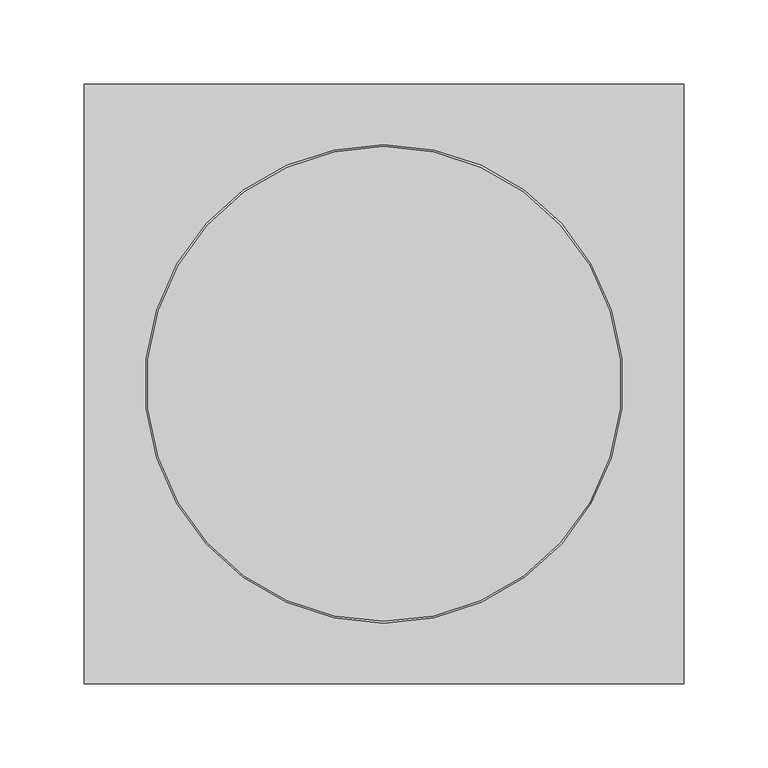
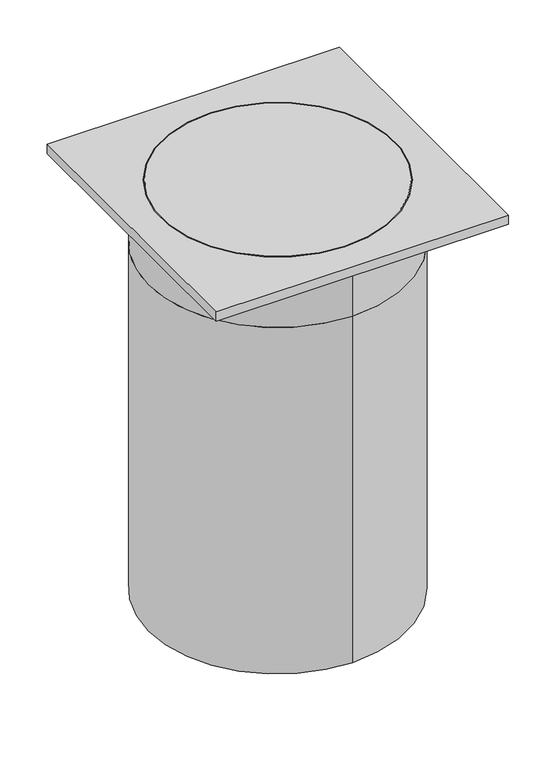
"""IFC4 building model written with IfcOpenShell, lengths in millimetres: valve geometry, Pipelife - Studnia PRO - Teleskop 315 z kratą : 40.0t/315/400 D400K."""

from ifc_helpers import new_model, si_unit, point, frame, origin, origin_2d, place, context, project, spatial, polyline, circle_curve, trimmed, segment, composite_curve, outline, extrude, source, transform, mapped, element, save
from ifc_brep_helpers import plane_surface, cylinder_surface, revolved_surface, advanced_brep


def valve_eae6d5a1(model_context):
    return source(origin(), model_context, "Body", "SolidModel", [
        extrude(outline(polyline([(-178.0, -178.0), (-178.0, 178.0), (178.0, 178.0), (178.0, -178.0), (-178.0, -178.0)]), holes=[composite_curve([segment(trimmed(circle_curve(origin_2d(), 142.0), [point((0.0, 142.0))], [point((0.0, -142.0))], True, "CARTESIAN"), True, "CONTINUOUS"), segment(trimmed(circle_curve(origin_2d(), 142.0), [point((0.0, -142.0))], [point((0.0, 142.0))], True, "CARTESIAN"), True, "CONTINUOUS")], self_intersect=False)]), frame((0.0, 0.0, 4.0), z_axis=(0.0, 0.0, 1.0), x_axis=(1.0, 0.0, 0.0)), (0.0, 0.0, 1.0), 12.0),
        extrude(outline(composite_curve([segment(trimmed(circle_curve(origin_2d(), 141.0), [point((0.0, 141.0))], [point((0.0, -141.0))], False, "CARTESIAN"), True, "CONTINUOUS"), segment(trimmed(circle_curve(origin_2d(), 141.0), [point((0.0, -141.0))], [point((0.0, 141.0))], False, "CARTESIAN"), True, "CONTINUOUS")], self_intersect=False)), frame((0.0, 0.0, -10.0), z_axis=(0.0, 0.0, 1.0), x_axis=(1.0, 0.0, 0.0)), (0.0, 0.0, 1.0), 26.0),
        advanced_brep(
        [(0.0, 157.5, 4.0), (0.0, -157.5, 4.0), (0.0, -142.0, 4.0), (0.0, 142.0, 4.0), (0.0, 157.5, -64.0), (0.0, -157.5, -64.0), (0.0, 151.0, -64.0), (0.0, -151.0, -64.0), (0.0, 151.0, -10.0), (0.0, -151.0, -10.0), (0.0, 142.0, -10.0), (0.0, -142.0, -10.0)],
        [
            (0, 1, circle_curve(frame((0.0, 0.0, 4.0), z_axis=(0.0, 0.0, 1.0), x_axis=(0.0, -1.0, 0.0)), 157.5)),
            (1, 0, circle_curve(frame((0.0, 0.0, 4.0), z_axis=(0.0, 0.0, 1.0), x_axis=(0.0, -1.0, 0.0)), 157.5)),
            (2, 3, circle_curve(frame((0.0, 0.0, 4.0), z_axis=(0.0, 0.0, -1.0), x_axis=(0.0, -1.0, 0.0)), 142.0)),
            (3, 2, circle_curve(frame((0.0, 0.0, 4.0), z_axis=(0.0, 0.0, -1.0), x_axis=(0.0, -1.0, 0.0)), 142.0)),
            (4, 5, circle_curve(frame((0.0, 0.0, -64.0), z_axis=(0.0, 0.0, -1.0), x_axis=(0.0, -1.0, 0.0)), 157.5)),
            (5, 4, circle_curve(frame((0.0, 0.0, -64.0), z_axis=(0.0, 0.0, -1.0), x_axis=(0.0, -1.0, 0.0)), 157.5)),
            (6, 7, circle_curve(frame((0.0, 0.0, -64.0), z_axis=(0.0, 0.0, 1.0), x_axis=(0.0, -1.0, 0.0)), 151.0)),
            (7, 6, circle_curve(frame((0.0, 0.0, -64.0), z_axis=(0.0, 0.0, 1.0), x_axis=(0.0, -1.0, 0.0)), 151.0)),
            (0, 4),
            (5, 1),
            (8, 9, circle_curve(frame((0.0, 0.0, -10.0), z_axis=(0.0, 0.0, -1.0), x_axis=(0.0, -1.0, 0.0)), 151.0)),
            (9, 8, circle_curve(frame((0.0, 0.0, -10.0), z_axis=(0.0, 0.0, -1.0), x_axis=(0.0, -1.0, 0.0)), 151.0)),
            (10, 11, circle_curve(frame((0.0, 0.0, -10.0), z_axis=(0.0, 0.0, 1.0), x_axis=(0.0, -1.0, 0.0)), 142.0)),
            (11, 10, circle_curve(frame((0.0, 0.0, -10.0), z_axis=(0.0, 0.0, 1.0), x_axis=(0.0, -1.0, 0.0)), 142.0)),
            (9, 7),
            (6, 8),
            (10, 3),
            (2, 11),
        ],
        [
            plane_surface(frame((0.0, 0.0, 4.0), z_axis=(0.0, 0.0, 1.0), x_axis=(0.0, -1.0, 0.0))),
            plane_surface(frame((0.0, 0.0, -64.0), z_axis=(0.0, 0.0, -1.0), x_axis=(0.0, -1.0, 0.0))),
            cylinder_surface(frame((0.0, 0.0, 4.0), z_axis=(0.0, 0.0, 1.0), x_axis=(0.0, -1.0, 0.0)), 157.5),
            plane_surface(frame((0.0, 0.0, -10.0), z_axis=(0.0, 0.0, -1.0), x_axis=(0.0, -1.0, 0.0))),
            revolved_surface(polyline([(0.0, -151.0, -10.0), (0.0, -151.0, -64.0)]), (0.0, 0.0, -10.0), (0.0, 0.0, 1.0)),
            revolved_surface(polyline([(0.0, -142.0, 4.0), (0.0, -142.0, -10.0)]), (0.0, 0.0, 16.0), (0.0, 0.0, 1.0)),
        ],
        [
            (0, [[1, 2], [3, 4]]),
            (1, [[5, 6], [7, 8]]),
            (2, [[-1, 9, -6, 10]]),
            (2, [[-2, -10, -5, -9]]),
            (3, [[11, 12], [13, 14]]),
            (4, [[-12, 15, -7, 16]]),
            (4, [[-11, -16, -8, -15]]),
            (5, [[17, -3, 18, -13]]),
            (5, [[-17, -14, -18, -4]]),
        ],
    ),
        extrude(outline(composite_curve([segment(trimmed(circle_curve(origin_2d(), 157.5), [point((0.0, 157.5))], [point((0.0, -157.5))], False, "CARTESIAN"), True, "CONTINUOUS"), segment(trimmed(circle_curve(origin_2d(), 157.5), [point((0.0, -157.5))], [point((0.0, 157.5))], False, "CARTESIAN"), True, "CONTINUOUS")], self_intersect=False), holes=[composite_curve([segment(trimmed(circle_curve(origin_2d(), 151.0), [point((0.0, 151.0))], [point((0.0, -151.0))], True, "CARTESIAN"), True, "CONTINUOUS"), segment(trimmed(circle_curve(origin_2d(), 151.0), [point((0.0, -151.0))], [point((0.0, 151.0))], True, "CARTESIAN"), True, "CONTINUOUS")], self_intersect=False)]), frame((0.0, 0.0, -510.0), z_axis=(0.0, 0.0, 1.0), x_axis=(1.0, 0.0, 0.0)), (0.0, 0.0, 1.0), 446.0),
    ])


if __name__ == "__main__":
    model = new_model("IFC4")
    model_context = context("Model", 3, world=origin())
    ifc_project = project(units=[si_unit("LENGTHUNIT", "METRE", prefix="MILLI")], contexts=[model_context])
    site = spatial("IfcSite", under=ifc_project)
    building = spatial("IfcBuilding", under=site)
    placement = place(None, origin())
    valve_shape = valve_eae6d5a1(model_context)
    element("IfcValve", 1, ObjectType="Pipelife - Studnia PRO - Teleskop 315 z kratą : 40.0t/315/400 D400K", at=placement, inside=building, context=model_context, shape_type="MappedRepresentation", body=[
        mapped(valve_shape, transform((0.0, 0.0, 0.0), x_axis=(1.0, 0.0, 0.0), y_axis=(0.0, 1.0, 0.0), z_axis=(0.0, 0.0, 1.0))),
    ])
    save(model, "model.ifc")
